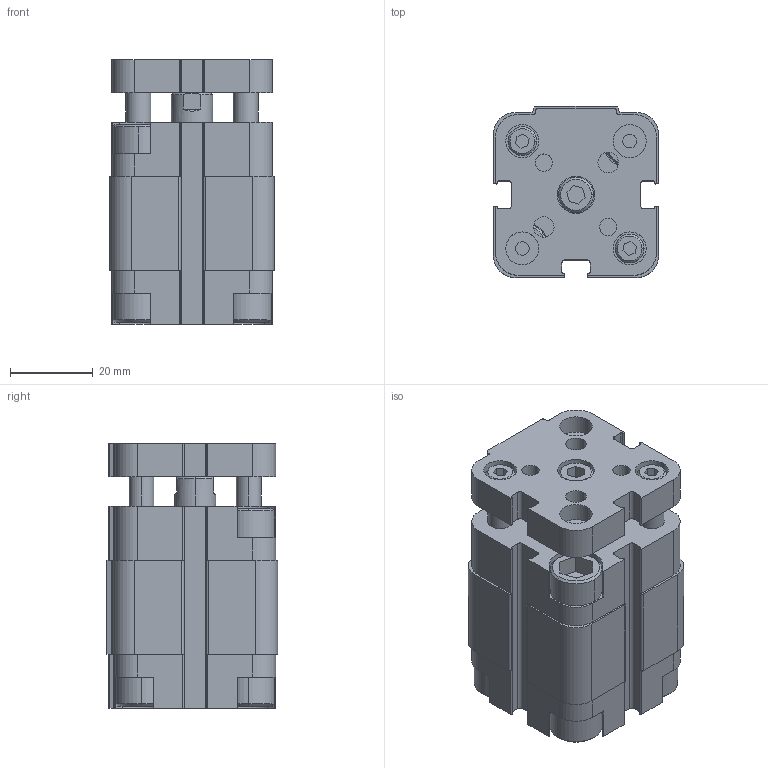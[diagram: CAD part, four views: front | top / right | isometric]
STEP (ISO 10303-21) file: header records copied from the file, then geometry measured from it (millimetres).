
FILE_DESCRIPTION (( 'STEP AP203' ), '1' );
FILE_NAME ('QFA0250010A.step', '2012-10-18T17:09:39', ( '' ), ( '' ), 'SwSTEP 2.0', 'SolidWorks 2012', '' );
FILE_SCHEMA (( 'CONFIG_CONTROL_DESIGN' ));
Length unit declared in the file: millimetre
Products named in the file (1): QFA0250010A
Bounding box: 40 x 41.5 x 64.2 mm (x, y, z)
Volume: 79850.6 mm3; surface area: 21826 mm2
Topology: 1 solids, 1 shells, 399 faces, 1064 edges, 701 vertices
Faces by surface type: plane 210, cylinder 157, cone 32
Entity records: 12655 total; most frequent: CARTESIAN_POINT 2263, DIRECTION 2210, ORIENTED_EDGE 2128, EDGE_CURVE 1064, AXIS2_PLACEMENT_3D 760, VERTEX_POINT 701, LINE 690, VECTOR 690
